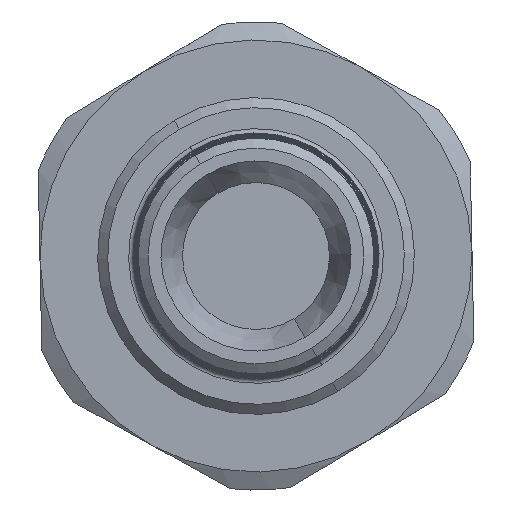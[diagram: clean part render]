
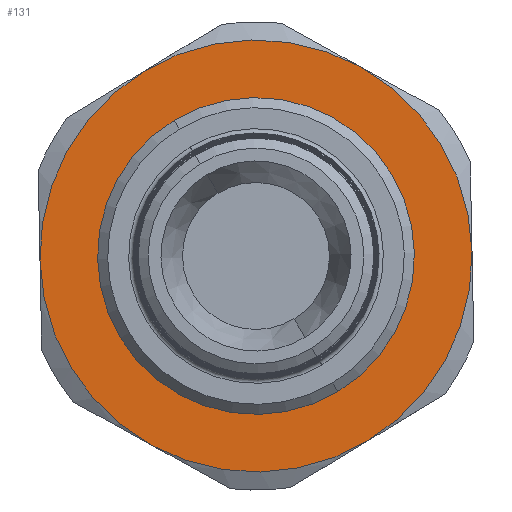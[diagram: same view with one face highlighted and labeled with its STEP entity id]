
A CAD part, left-side view. The second image highlights one B-rep face of the part: STEP entity #131.
In plain terms, the highlighted planar face has unit normal (-1, 0, 0) as drawn and (1, 0, 0) by its records, which use the part's own axes.
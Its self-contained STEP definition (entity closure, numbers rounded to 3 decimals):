
#131 = ADVANCED_FACE ( 'NONE', ( #4811, #4799 ), #4804, .T. ) ;
#1442 = DIRECTION ( 'NONE',  ( 1., 0., 0. ) ) ;
#1449 = DIRECTION ( 'NONE',  ( 0., 0., -1. ) ) ;
#1450 = CARTESIAN_POINT ( 'NONE',  ( 14.934, 0., 0. ) ) ;
#1537 = DIRECTION ( 'NONE',  ( 0., 0., -1. ) ) ;
#1544 = CARTESIAN_POINT ( 'NONE',  ( 14.934, 0., 0. ) ) ;
#1545 = DIRECTION ( 'NONE',  ( 1., 0., 0. ) ) ;
#1571 = DIRECTION ( 'NONE',  ( 0., 0., -1. ) ) ;
#1584 = CARTESIAN_POINT ( 'NONE',  ( 14.934, 0., 0. ) ) ;
#1585 = DIRECTION ( 'NONE',  ( 1., 0., 0. ) ) ;
#1603 = CARTESIAN_POINT ( 'NONE',  ( 14.934, 0., 0. ) ) ;
#1610 = DIRECTION ( 'NONE',  ( 1., 0., 0. ) ) ;
#1612 = DIRECTION ( 'NONE',  ( 0., 0., -1. ) ) ;
#1824 = CIRCLE ( 'NONE', #1828, 11. ) ;
#1828 = AXIS2_PLACEMENT_3D ( 'NONE', #1450, #1442, #1449 ) ;
#1861 = CIRCLE ( 'NONE', #1868, 15. ) ;
#1868 = AXIS2_PLACEMENT_3D ( 'NONE', #1544, #1545, #1537 ) ;
#1870 = CIRCLE ( 'NONE', #1880, 15. ) ;
#1871 = CIRCLE ( 'NONE', #1882, 15. ) ;
#1880 = AXIS2_PLACEMENT_3D ( 'NONE', #1584, #1585, #1571 ) ;
#1882 = AXIS2_PLACEMENT_3D ( 'NONE', #1603, #1610, #1612 ) ;
#1898 = AXIS2_PLACEMENT_3D ( 'NONE', #2864, #2865, #2872 ) ;
#1900 = AXIS2_PLACEMENT_3D ( 'NONE', #2904, #2910, #2905 ) ;
#1908 = CIRCLE ( 'NONE', #1900, 15. ) ;
#1909 = CIRCLE ( 'NONE', #1898, 11. ) ;
#1915 = AXIS2_PLACEMENT_3D ( 'NONE', #2040, #2048, #2050 ) ;
#1925 = CIRCLE ( 'NONE', #1915, 15. ) ;
#1926 = AXIS2_PLACEMENT_3D ( 'NONE', #2038, #2042, #2051 ) ;
#1930 = CIRCLE ( 'NONE', #1926, 15. ) ;
#2038 = CARTESIAN_POINT ( 'NONE',  ( 14.934, 0., 0. ) ) ;
#2040 = CARTESIAN_POINT ( 'NONE',  ( 14.934, 0., 0. ) ) ;
#2042 = DIRECTION ( 'NONE',  ( 1., 0., 0. ) ) ;
#2048 = DIRECTION ( 'NONE',  ( 1., 0., 0. ) ) ;
#2050 = DIRECTION ( 'NONE',  ( 0., 0., -1. ) ) ;
#2051 = DIRECTION ( 'NONE',  ( 0., 0., -1. ) ) ;
#2252 = CARTESIAN_POINT ( 'NONE',  ( 14.934, 0., -15. ) ) ;
#2255 = CARTESIAN_POINT ( 'NONE',  ( 14.934, -12.99, -7.5 ) ) ;
#2271 = CARTESIAN_POINT ( 'NONE',  ( 14.934, 12.99, 7.5 ) ) ;
#2282 = CARTESIAN_POINT ( 'NONE',  ( 14.934, 0., 11. ) ) ;
#2283 = CARTESIAN_POINT ( 'NONE',  ( 14.934, 0., 15. ) ) ;
#2291 = CARTESIAN_POINT ( 'NONE',  ( 14.934, 12.99, -7.5 ) ) ;
#2293 = CARTESIAN_POINT ( 'NONE',  ( 14.934, 0., -11. ) ) ;
#2305 = CARTESIAN_POINT ( 'NONE',  ( 14.934, -12.99, 7.5 ) ) ;
#2463 = EDGE_CURVE ( 'NONE', #4119, #4117, #1824, .T. ) ;
#2492 = EDGE_CURVE ( 'NONE', #4122, #4092, #1861, .T. ) ;
#2499 = EDGE_CURVE ( 'NONE', #4092, #4132, #1870, .T. ) ;
#2507 = EDGE_CURVE ( 'NONE', #4094, #4122, #1871, .T. ) ;
#2540 = EDGE_CURVE ( 'NONE', #4117, #4119, #1909, .T. ) ;
#2552 = EDGE_CURVE ( 'NONE', #4130, #4080, #1908, .T. ) ;
#2566 = EDGE_CURVE ( 'NONE', #4080, #4094, #1930, .T. ) ;
#2570 = EDGE_CURVE ( 'NONE', #4132, #4130, #1925, .T. ) ;
#2864 = CARTESIAN_POINT ( 'NONE',  ( 14.934, 0., 0. ) ) ;
#2865 = DIRECTION ( 'NONE',  ( 1., 0., 0. ) ) ;
#2872 = DIRECTION ( 'NONE',  ( 0., 0., -1. ) ) ;
#2904 = CARTESIAN_POINT ( 'NONE',  ( 14.934, 0., 0. ) ) ;
#2905 = DIRECTION ( 'NONE',  ( 0., 0., -1. ) ) ;
#2910 = DIRECTION ( 'NONE',  ( 1., 0., 0. ) ) ;
#3022 = EDGE_LOOP ( 'NONE', ( #5475, #5483 ) ) ;
#3046 = EDGE_LOOP ( 'NONE', ( #5520, #5424, #5500, #5458, #5502, #5454 ) ) ;
#3691 = AXIS2_PLACEMENT_3D ( 'NONE', #4806, #4807, #4808 ) ;
#4080 = VERTEX_POINT ( 'NONE', #2255 ) ;
#4092 = VERTEX_POINT ( 'NONE', #2271 ) ;
#4094 = VERTEX_POINT ( 'NONE', #2252 ) ;
#4117 = VERTEX_POINT ( 'NONE', #2282 ) ;
#4119 = VERTEX_POINT ( 'NONE', #2293 ) ;
#4122 = VERTEX_POINT ( 'NONE', #2291 ) ;
#4130 = VERTEX_POINT ( 'NONE', #2305 ) ;
#4132 = VERTEX_POINT ( 'NONE', #2283 ) ;
#4799 = FACE_BOUND ( 'NONE', #3022, .T. ) ;
#4804 = PLANE ( 'NONE',  #3691 ) ;
#4806 = CARTESIAN_POINT ( 'NONE',  ( 14.934, 0., 0. ) ) ;
#4807 = DIRECTION ( 'NONE',  ( 1., 0., 0. ) ) ;
#4808 = DIRECTION ( 'NONE',  ( 0., 0., -1. ) ) ;
#4811 = FACE_OUTER_BOUND ( 'NONE', #3046, .T. ) ;
#5424 = ORIENTED_EDGE ( 'NONE', *, *, #2492, .T. ) ;
#5454 = ORIENTED_EDGE ( 'NONE', *, *, #2566, .T. ) ;
#5458 = ORIENTED_EDGE ( 'NONE', *, *, #2570, .T. ) ;
#5475 = ORIENTED_EDGE ( 'NONE', *, *, #2463, .F. ) ;
#5483 = ORIENTED_EDGE ( 'NONE', *, *, #2540, .F. ) ;
#5500 = ORIENTED_EDGE ( 'NONE', *, *, #2499, .T. ) ;
#5502 = ORIENTED_EDGE ( 'NONE', *, *, #2552, .T. ) ;
#5520 = ORIENTED_EDGE ( 'NONE', *, *, #2507, .T. ) ;
